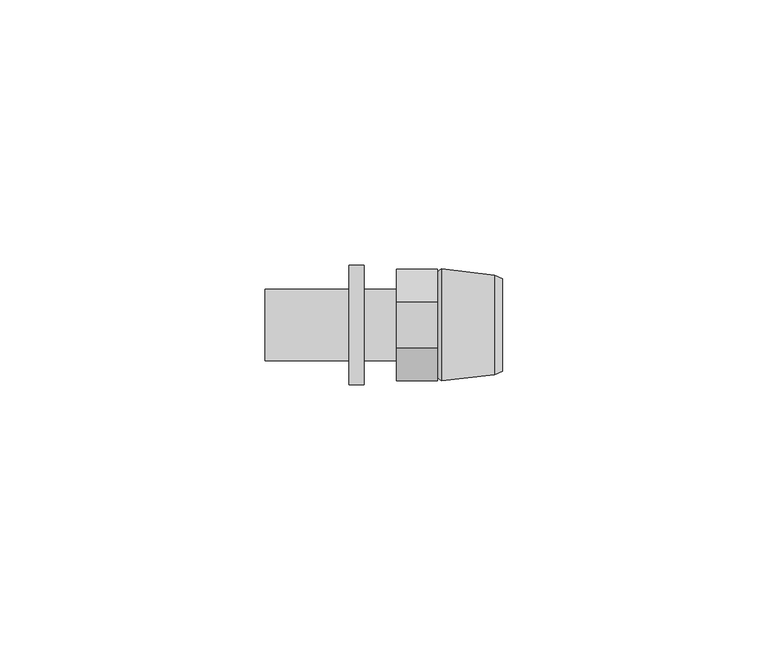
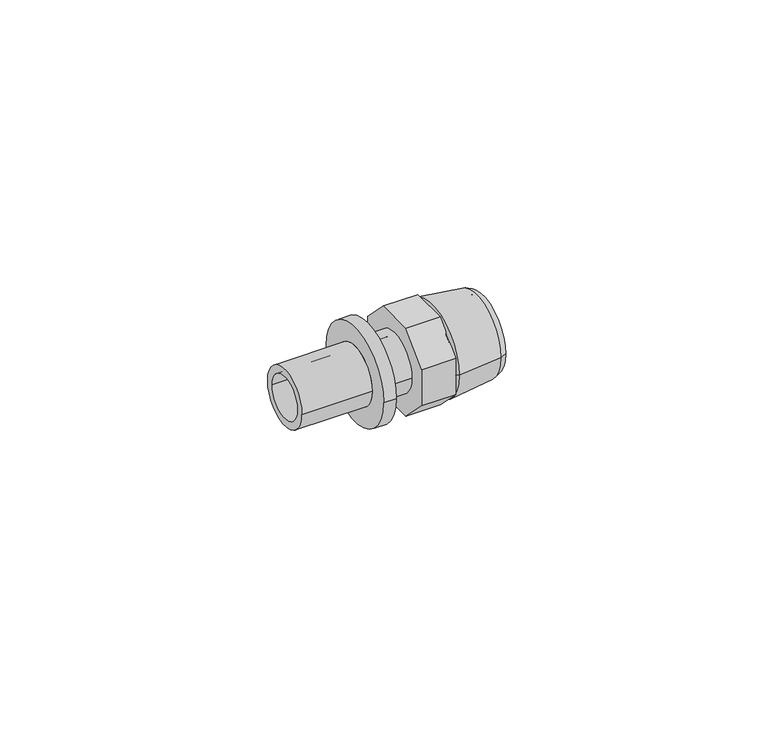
"""IFC4 building model written with IfcOpenShell, lengths in millimetres: pipe fitting geometry, RAUTITAN_Adapter_external_thread : RTI A external DE."""

from ifc_helpers import new_model, si_unit, frame, origin, place, context, project, spatial, polyline, circle_curve, outline, extrude, source, transform, mapped, element, save
from ifc_brep_helpers import plane_surface, cylinder_surface, revolved_surface, advanced_brep


def pipe_fitting_f541f91f(model_context):
    return source(origin(), model_context, "Body", "SolidModel", [
        advanced_brep(
        [(-8.97, 6.725, 0.0), (-8.97, -6.725, 0.0), (-24.8, -6.725, 0.0), (-24.8, 6.725, 0.0), (-6.1, 11.25, 0.0), (-6.1, -11.25, 0.0), (-8.97, -11.25, 0.0), (-8.97, 11.25, 0.0), (-24.8, 4.95, 0.0), (-24.8, -4.95, 0.0), (0.0, -4.95, 0.0), (0.0, 4.95, 0.0), (0.0, 6.725, 0.0), (0.0, -6.725, 0.0), (-6.1, -6.725, 0.0), (-6.1, 6.725, 0.0)],
        [
            (0, 1, circle_curve(frame((-8.97, 0.0, 0.0), z_axis=(-1.0, 0.0, 0.0), x_axis=(0.0, -1.0, 0.0)), 6.725)),
            (1, 2),
            (2, 3, circle_curve(frame((-24.8, 0.0, 0.0), z_axis=(1.0, 0.0, 0.0), x_axis=(0.0, -1.0, 0.0)), 6.725)),
            (3, 0),
            (4, 5, circle_curve(frame((-6.1, 0.0, 0.0), z_axis=(-1.0, 0.0, 0.0), x_axis=(0.0, -1.0, 0.0)), 11.25)),
            (5, 6),
            (6, 7, circle_curve(frame((-8.97, 0.0, 0.0), z_axis=(1.0, 0.0, 0.0), x_axis=(0.0, -1.0, 0.0)), 11.25)),
            (7, 4),
            (8, 9, circle_curve(frame((-24.8, 0.0, 0.0), z_axis=(-1.0, 0.0, 0.0), x_axis=(0.0, -1.0, 0.0)), 4.95)),
            (9, 10),
            (10, 11, circle_curve(frame((0.0, 0.0, 0.0), z_axis=(1.0, 0.0, 0.0), x_axis=(0.0, -1.0, 0.0)), 4.95)),
            (11, 8),
            (2, 3, circle_curve(frame((-24.8, 0.0, 0.0), z_axis=(-1.0, 0.0, 0.0), x_axis=(0.0, 1.0, 0.0)), 6.725)),
            (8, 9, circle_curve(frame((-24.8, 0.0, 0.0), z_axis=(1.0, 0.0, 0.0), x_axis=(0.0, 1.0, 0.0)), 4.95)),
            (1, 0, circle_curve(frame((-8.97, 0.0, 0.0), z_axis=(-1.0, 0.0, 0.0), x_axis=(0.0, 1.0, 0.0)), 6.725)),
            (6, 7, circle_curve(frame((-8.97, 0.0, 0.0), z_axis=(-1.0, 0.0, 0.0), x_axis=(0.0, 1.0, 0.0)), 11.25)),
            (5, 4, circle_curve(frame((-6.1, 0.0, 0.0), z_axis=(-1.0, 0.0, 0.0), x_axis=(0.0, 1.0, 0.0)), 11.25)),
            (12, 13, circle_curve(frame((0.0, 0.0, 0.0), z_axis=(1.0, 0.0, 0.0), x_axis=(0.0, 1.0, 0.0)), 6.725)),
            (13, 12, circle_curve(frame((0.0, 0.0, 0.0), z_axis=(1.0, 0.0, 0.0), x_axis=(0.0, -1.0, 0.0)), 6.725)),
            (10, 11, circle_curve(frame((0.0, 0.0, 0.0), z_axis=(-1.0, 0.0, 0.0), x_axis=(0.0, 1.0, 0.0)), 4.95)),
            (13, 14),
            (14, 15, circle_curve(frame((-6.1, 0.0, 0.0), z_axis=(1.0, 0.0, 0.0), x_axis=(0.0, -1.0, 0.0)), 6.725)),
            (15, 12),
            (14, 15, circle_curve(frame((-6.1, 0.0, 0.0), z_axis=(-1.0, 0.0, 0.0), x_axis=(0.0, 1.0, 0.0)), 6.725)),
        ],
        [
            cylinder_surface(frame((0.0, 0.0, 0.0), z_axis=(1.0, 0.0, 0.0), x_axis=(0.0, -1.0, 0.0)), 6.725),
            cylinder_surface(frame((0.0, 0.0, 0.0), z_axis=(1.0, 0.0, 0.0), x_axis=(0.0, -1.0, 0.0)), 11.25),
            revolved_surface(polyline([(0.0, -4.95, 0.0), (-24.8, -4.95, 0.0)]), (0.0, 0.0, 0.0), (1.0, 0.0, 0.0)),
            plane_surface(frame((-24.8, 0.0, 0.0), z_axis=(-1.0, 0.0, 0.0), x_axis=(0.0, 1.0, 0.0))),
            cylinder_surface(frame((0.0, 0.0, 0.0), z_axis=(1.0, 0.0, 0.0), x_axis=(0.0, 1.0, 0.0)), 6.725),
            plane_surface(frame((-8.97, 0.0, 0.0), z_axis=(-1.0, 0.0, 0.0), x_axis=(0.0, 1.0, 0.0))),
            cylinder_surface(frame((0.0, 0.0, 0.0), z_axis=(1.0, 0.0, 0.0), x_axis=(0.0, 1.0, 0.0)), 11.25),
            plane_surface(frame((0.0, 0.0, 0.0), z_axis=(1.0, 0.0, 0.0), x_axis=(0.0, 1.0, 0.0))),
            revolved_surface(polyline([(0.0, 4.95, 0.0), (-24.8, 4.95, 0.0)]), (0.0, 0.0, 0.0), (1.0, 0.0, 0.0)),
            plane_surface(frame((-6.1, 0.0, 0.0), z_axis=(1.0, 0.0, 0.0), x_axis=(0.0, 1.0, 0.0))),
        ],
        [
            (0, [[1, 2, 3, 4]]),
            (1, [[5, 6, 7, 8]]),
            (2, [[9, 10, 11, 12]]),
            (3, [[13, -3], [14, -9]]),
            (4, [[15, -4, -13, -2]]),
            (5, [[16, -7], [-15, -1]]),
            (6, [[17, -8, -16, -6]]),
            (7, [[18, 19], [20, -11]]),
            (8, [[-14, -12, -20, -10]]),
            (0, [[-19, 21, 22, 23]]),
            (9, [[-17, -5], [24, -22]]),
            (4, [[-18, -23, -24, -21]]),
        ],
    ),
        advanced_brep(
        [(8.8232803, 7.5, 0.0), (8.8232803, -7.5, 0.0), (19.99, -7.5, 0.0), (19.99, 7.5, 0.0), (7.72, 6.3967197, 0.0), (7.72, -6.3967197, 0.0), (8.4606902, 10.55, 0.0), (8.4606902, -10.55, 0.0), (7.72, -10.0, 0.0), (7.72, 10.0, 0.0), (18.4900007, 9.39, 0.0), (18.4900007, -9.39, 0.0), (19.99, 8.725, 0.0), (19.99, -8.725, 0.0)],
        [
            (0, 1, circle_curve(frame((8.8232803, 0.0, 0.0), z_axis=(-1.0, 0.0, 0.0), x_axis=(0.0, -1.0, 0.0)), 7.5)),
            (1, 2),
            (2, 3, circle_curve(frame((19.99, 0.0, 0.0), z_axis=(1.0, 0.0, 0.0), x_axis=(0.0, -1.0, 0.0)), 7.5)),
            (3, 0),
            (4, 5, circle_curve(frame((7.72, 0.0, 0.0), z_axis=(-1.0, 0.0, 0.0), x_axis=(0.0, -1.0, 0.0)), 6.3967197)),
            (5, 1),
            (0, 4),
            (6, 7, circle_curve(frame((8.4606902, 0.0, 0.0), z_axis=(-1.0, 0.0, 0.0), x_axis=(0.0, -1.0, 0.0)), 10.55)),
            (7, 8),
            (8, 9, circle_curve(frame((7.72, 0.0, 0.0), z_axis=(1.0, 0.0, 0.0), x_axis=(0.0, -1.0, 0.0)), 10.0)),
            (9, 6),
            (10, 11, circle_curve(frame((18.4900007, 0.0, 0.0), z_axis=(-1.0, 0.0, 0.0), x_axis=(0.0, -1.0, 0.0)), 9.39)),
            (11, 7),
            (6, 10),
            (12, 13, circle_curve(frame((19.99, 0.0, 0.0), z_axis=(-1.0, 0.0, 0.0), x_axis=(0.0, -1.0, 0.0)), 8.725)),
            (13, 11),
            (10, 12),
            (1, 0, circle_curve(frame((8.8232803, 0.0, 0.0), z_axis=(-1.0, 0.0, 0.0), x_axis=(0.0, 1.0, 0.0)), 7.5)),
            (3, 2, circle_curve(frame((19.99, 0.0, 0.0), z_axis=(1.0, 0.0, 0.0), x_axis=(0.0, 1.0, 0.0)), 7.5)),
            (5, 4, circle_curve(frame((7.72, 0.0, 0.0), z_axis=(-1.0, 0.0, 0.0), x_axis=(0.0, 1.0, 0.0)), 6.3967197)),
            (8, 9, circle_curve(frame((7.72, 0.0, 0.0), z_axis=(-1.0, 0.0, 0.0), x_axis=(0.0, 1.0, 0.0)), 10.0)),
            (7, 6, circle_curve(frame((8.4606902, 0.0, 0.0), z_axis=(-1.0, 0.0, 0.0), x_axis=(0.0, 1.0, 0.0)), 10.55)),
            (11, 10, circle_curve(frame((18.4900007, 0.0, 0.0), z_axis=(-1.0, 0.0, 0.0), x_axis=(0.0, 1.0, 0.0)), 9.39)),
            (13, 12, circle_curve(frame((19.99, 0.0, 0.0), z_axis=(-1.0, 0.0, 0.0), x_axis=(0.0, 1.0, 0.0)), 8.725)),
        ],
        [
            revolved_surface(polyline([(19.99, -7.5, 0.0), (8.8232803, -7.5, 0.0)]), (0.0, 0.0, 0.0), (1.0, 0.0, 0.0)),
            revolved_surface(polyline([(8.8232803, -7.5, 0.0), (7.72, -6.3967197, 0.0)]), (0.0, 0.0, 0.0), (1.0, 0.0, 0.0)),
            revolved_surface(polyline([(7.72, -10.0, 0.0), (8.4606902, -10.55, 0.0)]), (0.0, 0.0, 0.0), (1.0, 0.0, 0.0)),
            revolved_surface(polyline([(8.4606902, -10.55, 0.0), (18.4900007, -9.39, 0.0)]), (0.0, 0.0, 0.0), (1.0, 0.0, 0.0)),
            revolved_surface(polyline([(18.4900007, -9.39, 0.0), (19.99, -8.725, 0.0)]), (0.0, 0.0, 0.0), (1.0, 0.0, 0.0)),
            revolved_surface(polyline([(19.99, 7.5, 0.0), (8.8232803, 7.5, 0.0)]), (0.0, 0.0, 0.0), (1.0, 0.0, 0.0)),
            revolved_surface(polyline([(8.8232803, 7.5, 0.0), (7.72, 6.3967197, 0.0)]), (0.0, 0.0, 0.0), (1.0, 0.0, 0.0)),
            plane_surface(frame((7.72, 0.0, 0.0), z_axis=(-1.0, 0.0, 0.0), x_axis=(0.0, 1.0, 0.0))),
            revolved_surface(polyline([(7.72, 10.0, 0.0), (8.4606902, 10.55, 0.0)]), (0.0, 0.0, 0.0), (1.0, 0.0, 0.0)),
            revolved_surface(polyline([(8.4606902, 10.55, 0.0), (18.4900007, 9.39, 0.0)]), (0.0, 0.0, 0.0), (1.0, 0.0, 0.0)),
            revolved_surface(polyline([(18.4900007, 9.39, 0.0), (19.99, 8.725, 0.0)]), (0.0, 0.0, 0.0), (1.0, 0.0, 0.0)),
            plane_surface(frame((19.99, 0.0, 0.0), z_axis=(1.0, 0.0, 0.0), x_axis=(0.0, 1.0, 0.0))),
        ],
        [
            (0, [[1, 2, 3, 4]]),
            (1, [[5, 6, -1, 7]]),
            (2, [[8, 9, 10, 11]]),
            (3, [[12, 13, -8, 14]]),
            (4, [[15, 16, -12, 17]]),
            (5, [[18, -4, 19, -2]]),
            (6, [[20, -7, -18, -6]]),
            (7, [[21, -10], [-20, -5]]),
            (8, [[22, -11, -21, -9]]),
            (9, [[23, -14, -22, -13]]),
            (10, [[24, -17, -23, -16]]),
            (11, [[-24, -15], [-19, -3]]),
        ],
    ),
        extrude(outline(polyline([(-10.5, 4.3492424), (-4.3492424, 10.5), (4.3492424, 10.5), (10.5, 4.3492424), (10.5, -4.3492424), (4.3492424, -10.5), (-4.3492424, -10.5), (-10.5, -4.3492424), (-10.5, 4.3492424)])), frame((0.0, 0.0, 0.0), z_axis=(1.0, 0.0, 0.0), x_axis=(0.0, 1.0, 0.0)), (0.0, 0.0, 1.0), 7.72),
    ])


if __name__ == "__main__":
    model = new_model("IFC4")
    model_context = context("Model", 3, world=origin())
    ifc_project = project(units=[si_unit("LENGTHUNIT", "METRE", prefix="MILLI")], contexts=[model_context])
    site = spatial("IfcSite", under=ifc_project)
    building = spatial("IfcBuilding", under=site)
    placement = place(None, origin())
    pipe_fitting_shape = pipe_fitting_f541f91f(model_context)
    element("IfcPipeFitting", 1, ObjectType="RAUTITAN_Adapter_external_thread : RTI A external DE", at=placement, inside=building, context=model_context, shape_type="MappedRepresentation", body=[
        mapped(pipe_fitting_shape, transform((0.0, 0.0, 0.0), x_axis=(1.0, 0.0, 0.0), y_axis=(0.0, 1.0, 0.0), z_axis=(0.0, 0.0, 1.0))),
    ])
    save(model, "model.ifc")
